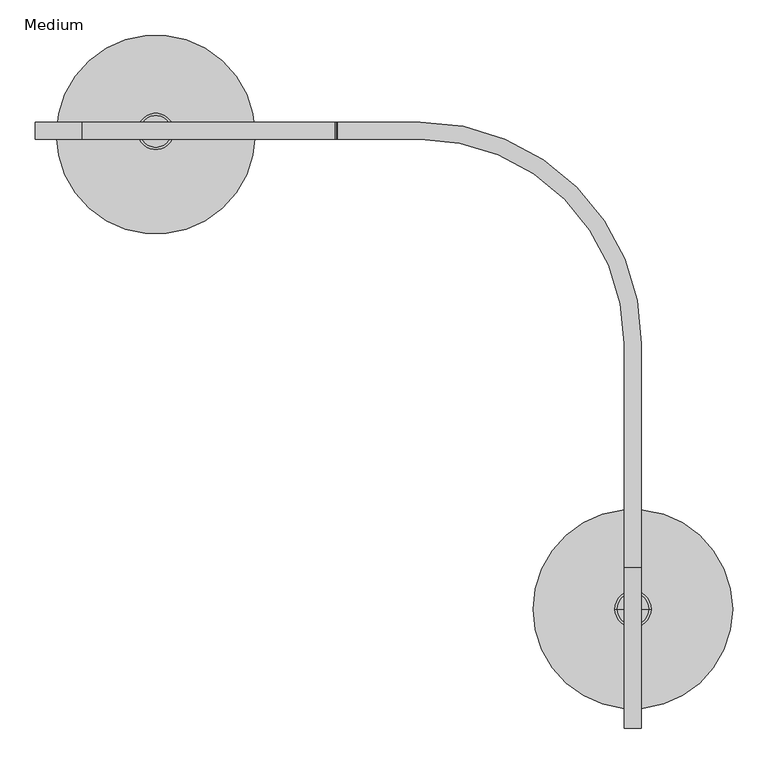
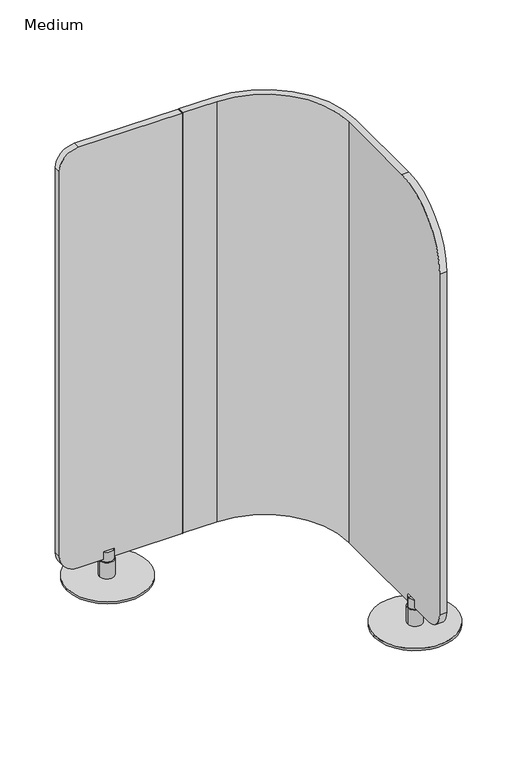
"""IFC4 building model written with IfcOpenShell, lengths in millimetres: furniture geometry, Coalesse_AM_SpaceDivision_Screen_Ensemble_Corner : Medium."""

from ifc_helpers import new_model, si_unit, point, frame, frame_2d, origin, origin_with_axes, place, context, project, spatial, polyline, circle_curve, trimmed, segment, composite_curve, outline, extrude, source, transform, mapped, element, save
from ifc_brep_helpers import plane_surface, cylinder_surface, revolved_surface, advanced_brep


def medium_ccca6f1d(model_context):
    return source(origin(), model_context, "Body", "SolidModel", [
        advanced_brep(
        [(542.087374, -23.9774863, 1606.042), (425.2272842, -23.9774863, 1606.042), (423.9933105, -23.9774863, 1604.8080263), (423.9933105, -23.9774863, 75.7241996), (425.2080637, -23.9774863, 74.5094463), (542.087374, -23.9774863, 74.5093328), (829.995618, -311.9750865, 1606.042), (829.995618, -311.9750865, 74.5093328), (542.0984688, 0.0, 1606.042), (853.9976686, -311.8991998, 1606.042), (853.9976686, -311.8991998, 74.5093328), (542.0984688, 0.0, 74.5093328), (425.2272842, 0.0, 1606.042), (425.2080637, 0.0, 74.5094463), (423.9933105, 0.0, 75.7241996), (423.9933105, 0.0, 1604.8080263), (853.9730377, -628.1115594, 1606.042), (853.9730377, -853.9734079, 1380.1801515), (853.9730377, -853.9734079, 139.3436268), (853.9730377, -789.1395851, 74.509804), (829.995618, -789.1395851, 74.509804), (829.995618, -853.9734079, 139.3436268), (829.995618, -853.9734079, 1380.1801515), (829.995618, -628.1115594, 1606.042)],
        [
            (0, 1),
            (1, 2, circle_curve(frame((425.2272842, -23.9774863, 1604.8080263), z_axis=(0.0, -1.0, 0.0), x_axis=(1.0, 0.0, 0.0)), 1.2339737)),
            (2, 3),
            (3, 4, circle_curve(frame((425.2080637, -23.9774863, 75.7241996), z_axis=(0.0, -1.0, 0.0), x_axis=(1.0, 0.0, 0.0)), 1.2147532)),
            (4, 5),
            (5, 0),
            (6, 0, circle_curve(frame((542.087374, -311.8857441, 1606.042), z_axis=(0.0, 0.0, 1.0), x_axis=(1.0, 0.0, 0.0)), 287.9082578)),
            (5, 7, circle_curve(frame((542.087374, -311.8857441, 74.5093328), z_axis=(0.0, 0.0, -1.0), x_axis=(1.0, 0.0, 0.0)), 287.9082578)),
            (7, 6),
            (8, 9, circle_curve(frame((542.0984688, -311.8991998, 1606.042), z_axis=(0.0, 0.0, -1.0), x_axis=(1.0, 0.0, 0.0)), 311.8991998)),
            (9, 10),
            (10, 11, circle_curve(frame((542.0984688, -311.8991998, 74.5093328), z_axis=(0.0, 0.0, 1.0), x_axis=(1.0, 0.0, 0.0)), 311.8991998)),
            (11, 8),
            (12, 8),
            (11, 13),
            (13, 14, circle_curve(frame((425.2080637, 0.0, 75.7241996), z_axis=(0.0, 1.0, 0.0), x_axis=(1.0, 0.0, 0.0)), 1.2147532)),
            (14, 15),
            (15, 12, circle_curve(frame((425.2272842, 0.0, 1604.8080263), z_axis=(0.0, 1.0, 0.0), x_axis=(1.0, 0.0, 0.0)), 1.2339737)),
            (1, 12),
            (15, 2),
            (14, 3),
            (13, 4),
            (16, 17, circle_curve(frame((853.9730377, -628.1115594, 1380.1801515), z_axis=(1.0, 0.0, 0.0), x_axis=(0.0, 1.0, 0.0)), 225.8618485)),
            (17, 18),
            (18, 19, circle_curve(frame((853.9730377, -789.1395851, 139.3436268), z_axis=(1.0, 0.0, 0.0), x_axis=(0.0, 1.0, 0.0)), 64.8338228)),
            (19, 10),
            (9, 16),
            (20, 21, circle_curve(frame((829.995618, -789.1395851, 139.3436268), z_axis=(-1.0, 0.0, 0.0), x_axis=(0.0, 1.0, 0.0)), 64.8338228)),
            (21, 22),
            (22, 23, circle_curve(frame((829.995618, -628.1115594, 1380.1801515), z_axis=(-1.0, 0.0, 0.0), x_axis=(0.0, 1.0, 0.0)), 225.8618485)),
            (23, 6),
            (7, 20),
            (16, 23),
            (22, 17),
            (21, 18),
            (20, 19),
        ],
        [
            plane_surface(frame((537.7681369, -23.9774863, 1606.042), z_axis=(0.0, -1.0, 0.0), x_axis=(0.0, 0.0, -1.0))),
            revolved_surface(polyline([(829.9956318, -311.8857441, 74.5093328), (829.9956318, -311.8857441, 1606.042)]), (542.087374, -311.8857441, 74.5093328), (0.0, 0.0, -1.0)),
            cylinder_surface(frame((542.0984688, -311.8991998, 74.5093328), z_axis=(0.0, 0.0, 1.0), x_axis=(1.0, 0.0, 0.0)), 311.8991998),
            plane_surface(frame((542.0984688, 0.0, 1606.042), z_axis=(0.0, 1.0, 0.0), x_axis=(0.0, 0.0, -1.0))),
            cylinder_surface(frame((425.2272842, 0.0, 1604.8080263), z_axis=(0.0, -1.0, 0.0), x_axis=(1.0, 0.0, 0.0)), 1.2339737),
            plane_surface(frame((423.9933105, -23.9774863, 1604.8080263), z_axis=(-1.0, 0.0, 0.0), x_axis=(0.0, 1.0, 0.0))),
            cylinder_surface(frame((425.2080637, 0.0, 75.7241996), z_axis=(0.0, -1.0, 0.0), x_axis=(1.0, 0.0, 0.0)), 1.2147532),
            plane_surface(frame((853.9730377, -402.2497109, 1380.1801515), z_axis=(1.0, 0.0, 0.0), x_axis=(0.0, 0.0, 1.0))),
            plane_surface(frame((829.995618, -402.2497109, 1380.1801515), z_axis=(-1.0, 0.0, 0.0), x_axis=(0.0, 0.0, -1.0))),
            cylinder_surface(frame((829.995618, -628.1115594, 1380.1801515), z_axis=(1.0, 0.0, 0.0), x_axis=(0.0, 1.0, 0.0)), 225.8618485),
            plane_surface(frame((853.9730377, -853.9734079, 1380.1801515), z_axis=(0.0, -1.0, 0.0), x_axis=(-1.0, 0.0, 0.0))),
            cylinder_surface(frame((829.995618, -789.1395851, 139.3436268), z_axis=(1.0, 0.0, 0.0), x_axis=(0.0, 1.0, 0.0)), 64.8338228),
            plane_surface(frame((853.9730377, -789.1395851, 74.509804), z_axis=(0.0, 0.0, -1.0), x_axis=(-1.0, 0.0, 0.0))),
            plane_surface(frame((853.9730377, -315.8189106, 1606.042), z_axis=(0.0, 0.0, 1.0), x_axis=(-1.0, 0.0, 0.0))),
        ],
        [
            (0, [[1, 2, 3, 4, 5, 6]]),
            (1, [[7, -6, 8, 9]]),
            (2, [[10, 11, 12, 13]]),
            (3, [[14, -13, 15, 16, 17, 18]]),
            (4, [[-2, 19, -18, 20]]),
            (5, [[-3, -20, -17, 21]]),
            (6, [[-4, -21, -16, 22]]),
            (7, [[23, 24, 25, 26, -11, 27]]),
            (8, [[28, 29, 30, 31, -9, 32]]),
            (9, [[-23, 33, -30, 34]]),
            (10, [[-24, -34, -29, 35]]),
            (11, [[-25, -35, -28, 36]]),
            (12, [[-36, -32, -8, -5, -22, -15, -12, -26]]),
            (13, [[-33, -27, -10, -14, -19, -1, -7, -31]]),
        ],
    ),
        extrude(outline(composite_curve([segment(trimmed(circle_curve(frame_2d((1541.0783364, 64.9636636)), 64.9636636), [point((1606.042, 64.9636636))], [point((1541.0783364, 0.0))], False, "CARTESIAN"), True, "CONTINUOUS"), segment(polyline([(1541.0783364, 0.0), (138.0093328, 0.0)]), True, "CONTINUOUS"), segment(trimmed(circle_curve(frame_2d((138.0093328, 63.5)), 63.5), [point((138.0093328, 0.0))], [point((74.5093328, 63.5))], False, "CARTESIAN"), True, "CONTINUOUS"), segment(polyline([(74.5093328, 63.5), (74.5093328, 422.7146225)]), True, "CONTINUOUS"), segment(trimmed(circle_curve(frame_2d((75.7880209, 422.7146225)), 1.278688), [point((74.5093328, 422.7146225))], [point((75.7880209, 423.9933105))], False, "CARTESIAN"), True, "CONTINUOUS"), segment(polyline([(75.7880209, 423.9933105), (1604.8600977, 423.9933105)]), True, "CONTINUOUS"), segment(trimmed(circle_curve(frame_2d((1604.8600977, 422.8114082)), 1.1819023), [point((1604.8600977, 423.9933105))], [point((1606.042, 422.8114082))], False, "CARTESIAN"), True, "CONTINUOUS"), segment(polyline([(1606.042, 422.8114082), (1606.042, 64.9636636)]), True, "CONTINUOUS")], self_intersect=False)), frame((0.0, -23.9774863, 0.0), z_axis=(0.0, 1.0, 0.0), x_axis=(0.0, 0.0, 1.0)), (0.0, 0.0, 1.0), 23.9774863),
        advanced_brep(
        [(816.700333, -685.8161337, 7.8732992), (867.500333, -685.8161337, 7.8732992), (842.100333, -685.8161337, 7.8732992), (816.700333, -685.8161337, 67.1258584), (867.500333, -685.8161337, 67.1258584), (819.9544051, -685.8161337, 67.1258584), (864.2462609, -685.8161337, 67.1258584), (819.9544051, -685.8161337, 102.873817), (864.2462609, -685.8161337, 102.873817), (842.100333, -685.8161337, 102.873817)],
        [
            (0, 1, circle_curve(frame((842.100333, -685.8161337, 7.8732992), z_axis=(0.0, 0.0, -1.0), x_axis=(1.0, 0.0, 0.0)), 25.4)),
            (1, 2),
            (2, 0),
            (1, 0, circle_curve(frame((842.100333, -685.8161337, 7.8732992), z_axis=(0.0, 0.0, -1.0), x_axis=(1.0, 0.0, 0.0)), 25.4)),
            (3, 4, circle_curve(frame((842.100333, -685.8161337, 67.1258584), z_axis=(0.0, 0.0, -1.0), x_axis=(1.0, 0.0, 0.0)), 25.4)),
            (4, 1),
            (0, 3),
            (4, 3, circle_curve(frame((842.100333, -685.8161337, 67.1258584), z_axis=(0.0, 0.0, -1.0), x_axis=(1.0, 0.0, 0.0)), 25.4)),
            (5, 6, circle_curve(frame((842.100333, -685.8161337, 67.1258584), z_axis=(0.0, 0.0, -1.0), x_axis=(1.0, 0.0, 0.0)), 22.1459279)),
            (6, 4),
            (3, 5),
            (6, 5, circle_curve(frame((842.100333, -685.8161337, 67.1258584), z_axis=(0.0, 0.0, -1.0), x_axis=(1.0, 0.0, 0.0)), 22.1459279)),
            (7, 8, circle_curve(frame((842.100333, -685.8161337, 102.873817), z_axis=(0.0, 0.0, -1.0), x_axis=(1.0, 0.0, 0.0)), 22.1459279)),
            (8, 6),
            (5, 7),
            (8, 7, circle_curve(frame((842.100333, -685.8161337, 102.873817), z_axis=(0.0, 0.0, -1.0), x_axis=(1.0, 0.0, 0.0)), 22.1459279)),
            (9, 8),
            (7, 9),
        ],
        [
            plane_surface(frame((842.100333, -685.8161337, 7.8732992), z_axis=(0.0, 0.0, -1.0), x_axis=(1.0, 0.0, 0.0))),
            cylinder_surface(frame((842.100333, -685.8161337, 102.873817), z_axis=(0.0, 0.0, 1.0), x_axis=(1.0, 0.0, 0.0)), 25.4),
            plane_surface(frame((842.100333, -685.8161337, 67.1258584), z_axis=(0.0, 0.0, 1.0), x_axis=(1.0, 0.0, 0.0))),
            cylinder_surface(frame((842.100333, -685.8161337, 102.873817), z_axis=(0.0, 0.0, 1.0), x_axis=(1.0, 0.0, 0.0)), 22.1459279),
            plane_surface(frame((842.100333, -685.8161337, 102.873817), z_axis=(0.0, 0.0, 1.0), x_axis=(1.0, 0.0, 0.0))),
        ],
        [
            (0, [[1, 2, 3]]),
            (0, [[4, -3, -2]]),
            (1, [[5, 6, -1, 7]]),
            (1, [[8, -7, -4, -6]]),
            (2, [[9, 10, -5, 11]]),
            (2, [[12, -11, -8, -10]]),
            (3, [[13, 14, -9, 15]]),
            (3, [[16, -15, -12, -14]]),
            (4, [[17, -13, 18]]),
            (4, [[-18, -16, -17]]),
        ],
    ),
        advanced_brep(
        [(144.1303497, -12.7, 7.8732992), (194.9303497, -12.7, 7.8732992), (169.5303497, -12.7, 7.8732992), (144.1303497, -12.7, 67.1258584), (194.9303497, -12.7, 67.1258584), (147.3844218, -12.7, 67.1258584), (191.6762776, -12.7, 67.1258584), (147.3844218, -12.7, 102.873817), (191.6762776, -12.7, 102.873817), (169.5303497, -12.7, 102.873817)],
        [
            (0, 1, circle_curve(frame((169.5303497, -12.7, 7.8732992), z_axis=(0.0, 0.0, -1.0), x_axis=(1.0, 0.0, 0.0)), 25.4)),
            (1, 2),
            (2, 0),
            (1, 0, circle_curve(frame((169.5303497, -12.7, 7.8732992), z_axis=(0.0, 0.0, -1.0), x_axis=(1.0, 0.0, 0.0)), 25.4)),
            (3, 4, circle_curve(frame((169.5303497, -12.7, 67.1258584), z_axis=(0.0, 0.0, -1.0), x_axis=(1.0, 0.0, 0.0)), 25.4)),
            (4, 1),
            (0, 3),
            (4, 3, circle_curve(frame((169.5303497, -12.7, 67.1258584), z_axis=(0.0, 0.0, -1.0), x_axis=(1.0, 0.0, 0.0)), 25.4)),
            (5, 6, circle_curve(frame((169.5303497, -12.7, 67.1258584), z_axis=(0.0, 0.0, -1.0), x_axis=(1.0, 0.0, 0.0)), 22.1459279)),
            (6, 4),
            (3, 5),
            (6, 5, circle_curve(frame((169.5303497, -12.7, 67.1258584), z_axis=(0.0, 0.0, -1.0), x_axis=(1.0, 0.0, 0.0)), 22.1459279)),
            (7, 8, circle_curve(frame((169.5303497, -12.7, 102.873817), z_axis=(0.0, 0.0, -1.0), x_axis=(1.0, 0.0, 0.0)), 22.1459279)),
            (8, 6),
            (5, 7),
            (8, 7, circle_curve(frame((169.5303497, -12.7, 102.873817), z_axis=(0.0, 0.0, -1.0), x_axis=(1.0, 0.0, 0.0)), 22.1459279)),
            (9, 8),
            (7, 9),
        ],
        [
            plane_surface(frame((169.5303497, -12.7, 7.8732992), z_axis=(0.0, 0.0, -1.0), x_axis=(1.0, 0.0, 0.0))),
            cylinder_surface(frame((169.5303497, -12.7, 102.873817), z_axis=(0.0, 0.0, 1.0), x_axis=(1.0, 0.0, 0.0)), 25.4),
            plane_surface(frame((169.5303497, -12.7, 67.1258584), z_axis=(0.0, 0.0, 1.0), x_axis=(1.0, 0.0, 0.0))),
            cylinder_surface(frame((169.5303497, -12.7, 102.873817), z_axis=(0.0, 0.0, 1.0), x_axis=(1.0, 0.0, 0.0)), 22.1459279),
            plane_surface(frame((169.5303497, -12.7, 102.873817), z_axis=(0.0, 0.0, 1.0), x_axis=(1.0, 0.0, 0.0))),
        ],
        [
            (0, [[1, 2, 3]]),
            (0, [[4, -3, -2]]),
            (1, [[5, 6, -1, 7]]),
            (1, [[8, -7, -4, -6]]),
            (2, [[9, 10, -5, 11]]),
            (2, [[12, -11, -8, -10]]),
            (3, [[13, 14, -9, 15]]),
            (3, [[16, -15, -12, -14]]),
            (4, [[17, -13, 18]]),
            (4, [[-18, -16, -17]]),
        ],
    ),
        extrude(outline(composite_curve([segment(trimmed(circle_curve(frame_2d((169.5303497, -17.0411177)), 140.0479005), [point((29.4824492, -17.0411177))], [point((309.5782503, -17.0411177))], False, "CARTESIAN"), True, "CONTINUOUS"), segment(trimmed(circle_curve(frame_2d((169.5303497, -17.0411177)), 140.0479005), [point((309.5782503, -17.0411177))], [point((29.4824492, -17.0411177))], False, "CARTESIAN"), True, "CONTINUOUS")], self_intersect=False)), origin_with_axes(), (0.0, 0.0, 1.0), 7.8732992),
        extrude(outline(composite_curve([segment(trimmed(circle_curve(frame_2d((841.9822183, -686.081839)), 140.3919114), [point((701.5903068, -686.081839))], [point((982.3741297, -686.081839))], False, "CARTESIAN"), True, "CONTINUOUS"), segment(trimmed(circle_curve(frame_2d((841.9822183, -686.081839)), 140.3919114), [point((982.3741297, -686.081839))], [point((701.5903068, -686.081839))], False, "CARTESIAN"), True, "CONTINUOUS")], self_intersect=False)), origin_with_axes(), (0.0, 0.0, 1.0), 7.8732992),
    ])


if __name__ == "__main__":
    model = new_model("IFC4")
    model_context = context("Model", 3, world=origin())
    ifc_project = project(units=[si_unit("LENGTHUNIT", "METRE", prefix="MILLI")], contexts=[model_context])
    site = spatial("IfcSite", under=ifc_project)
    building = spatial("IfcBuilding", under=site)
    placement = place(None, origin())
    medium_shape = medium_ccca6f1d(model_context)
    element("IfcFurniture", 1, ObjectType="Coalesse_AM_SpaceDivision_Screen_Ensemble_Corner : Medium", at=placement, inside=building, context=model_context, shape_type="MappedRepresentation", body=[
        mapped(medium_shape, transform((0.0, 0.0, 0.0), x_axis=(1.0, 0.0, 0.0), y_axis=(0.0, 1.0, 0.0), z_axis=(0.0, 0.0, 1.0))),
    ])
    save(model, "model.ifc")
